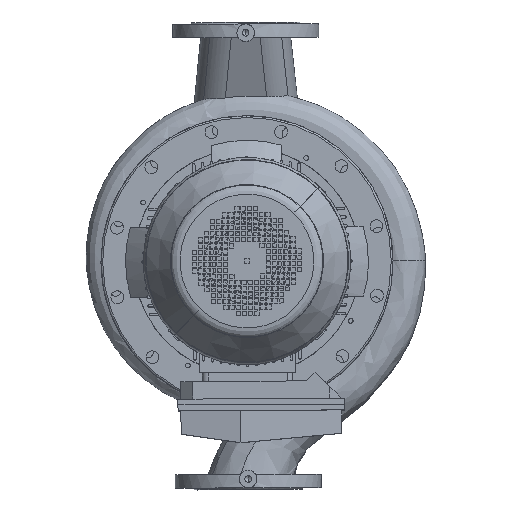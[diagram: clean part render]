
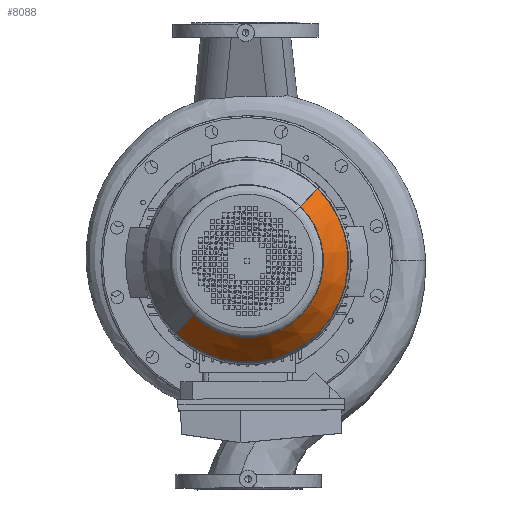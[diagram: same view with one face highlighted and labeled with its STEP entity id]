
A CAD part, top view. The second image highlights one B-rep face of the part: STEP entity #8088.
In plain terms, the highlighted conical face has half-angle 34.992 degrees and reference radius 125 mm.
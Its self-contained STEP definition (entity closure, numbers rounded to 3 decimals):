
#8088=ADVANCED_FACE('',(#17150),#17151,.T.);
#17150=FACE_OUTER_BOUND('',#29266,.T.);
#17151=CONICAL_SURFACE('',#29267,125.0,0.611);
#29266=EDGE_LOOP('',(#55416,#55417,#55418,#55419));
#29267=AXIS2_PLACEMENT_3D('',#55420,#55421,#55422);
#55416=ORIENTED_EDGE('',*,*,#63096,.T.);
#55417=ORIENTED_EDGE('',*,*,#63108,.F.);
#55418=ORIENTED_EDGE('',*,*,#63098,.T.);
#55419=ORIENTED_EDGE('',*,*,#66457,.F.);
#55420=CARTESIAN_POINT('',(0.0,0.0,235.0));
#55421=DIRECTION('',(0.0,-0.0,-1.0));
#55422=DIRECTION('',(-1.0,-0.0,-0.0));
#63096=EDGE_CURVE('',#73144,#73145,#73146,.T.);
#63098=EDGE_CURVE('',#73149,#73147,#73150,.T.);
#63108=EDGE_CURVE('',#73149,#73145,#73164,.T.);
#66457=EDGE_CURVE('',#73144,#73147,#78185,.T.);
#73144=VERTEX_POINT('',#87982);
#73145=VERTEX_POINT('',#87983);
#73146=LINE('',#87984,#87985);
#73147=VERTEX_POINT('',#87986);
#73149=VERTEX_POINT('',#87988);
#73150=LINE('',#87989,#87990);
#73164=CIRCLE('',#88004,130.972);
#78185=CIRCLE('',#95821,173.885);
#87982=CARTESIAN_POINT('',(-173.885,0.,165.165));
#87983=CARTESIAN_POINT('',(-130.972,0.,226.469));
#87984=CARTESIAN_POINT('',(-125.0,0.,235.0));
#87985=VECTOR('',#105064,1.0);
#87986=CARTESIAN_POINT('',(173.885,0.,165.165));
#87988=CARTESIAN_POINT('',(130.972,0.,226.469));
#87989=CARTESIAN_POINT('',(125.0,0.,235.0));
#87990=VECTOR('',#105068,1.0);
#88004=AXIS2_PLACEMENT_3D('',#105090,#105091,#105092);
#95821=AXIS2_PLACEMENT_3D('',#107581,#107582,#107583);
#105064=DIRECTION('',(0.573,0.,0.819));
#105068=DIRECTION('',(0.573,0.,-0.819));
#105090=CARTESIAN_POINT('',(0.0,0.,226.469));
#105091=DIRECTION('',(0.0,0.0,1.0));
#105092=DIRECTION('',(-1.0,0.,0.0));
#107581=CARTESIAN_POINT('',(0.0,0.0,165.165));
#107582=DIRECTION('',(-0.0,0.0,-1.0));
#107583=DIRECTION('',(-1.0,0.0,0.0));
